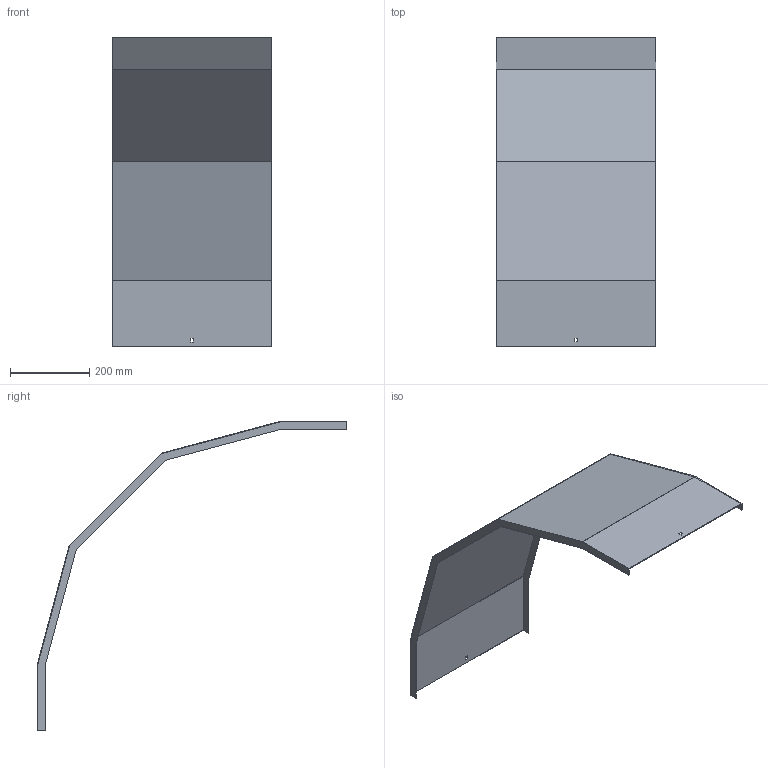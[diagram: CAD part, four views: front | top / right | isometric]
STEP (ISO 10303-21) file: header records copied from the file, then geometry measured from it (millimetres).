
FILE_DESCRIPTION (( 'STEP AP214' ), '1' );
FILE_NAME ('33N5J400.step', '2025-02-21T10:43:54', ( '' ), ( '' ), 'SwSTEP 2.0', 'SolidWorks 2023', '' );
FILE_SCHEMA (( 'AUTOMOTIVE_DESIGN' ));
Length unit declared in the file: millimetre
Products named in the file (1): 33N5J400
Bounding box: 403 x 779.96 x 779.96 mm (x, y, z)
Volume: 845565.1 mm3; surface area: 1132592.8 mm2
Topology: 1 solids, 1 shells, 34 faces, 96 edges, 64 vertices
Faces by surface type: plane 34
Entity records: 1111 total; most frequent: CARTESIAN_POINT 195, ORIENTED_EDGE 192, DIRECTION 166, VECTOR 96, LINE 96, EDGE_CURVE 96, VERTEX_POINT 64, EDGE_LOOP 38
